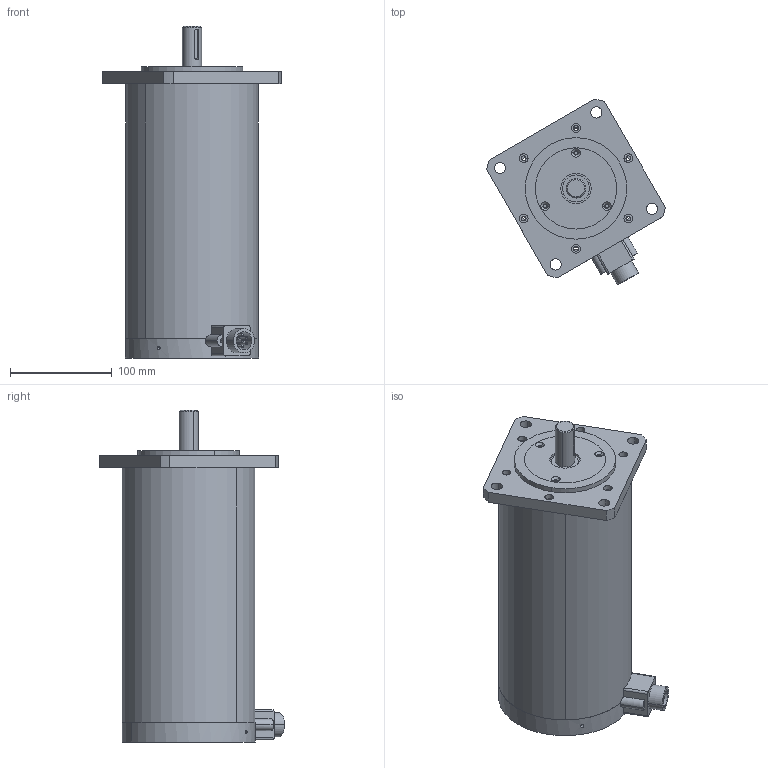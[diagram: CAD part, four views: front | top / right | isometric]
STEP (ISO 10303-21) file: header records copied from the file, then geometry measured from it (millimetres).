
FILE_DESCRIPTION (( 'STEP AP203' ), '1' );
FILE_NAME ('YK31328A.STEP', '2021-07-03T10:29:11', ( 'Admin' ), ( '' ), 'SwSTEP 2.0', 'SolidWorks 2016', '' );
FILE_SCHEMA (( 'CONFIG_CONTROL_DESIGN' ));
Length unit declared in the file: millimetre
Products named in the file (8): 粣創; 粣; 綴裔130; YK31328A; 諉芛; 裔啣5; ヶ裔130; 儂褲
Assembly tree (7 placements, depth 2):
  YK31328A
    裔啣5
    綴裔130
    儂褲
    ヶ裔130
    粣
    粣創
    諉芛
Bounding box: 176.14 x 182.72 x 327 mm (x, y, z)
Volume: 944766.2 mm3; surface area: 332115.6 mm2
Topology: 7 solids, 7 shells, 275 faces, 671 edges, 436 vertices
Faces by surface type: cylinder 179, plane 74, sphere 14, cone 8
Entity records: 9838 total; most frequent: CARTESIAN_POINT 2177, DIRECTION 1558, ORIENTED_EDGE 1314, EDGE_CURVE 657, AXIS2_PLACEMENT_3D 653, VERTEX_POINT 436, EDGE_LOOP 371, CIRCLE 368
